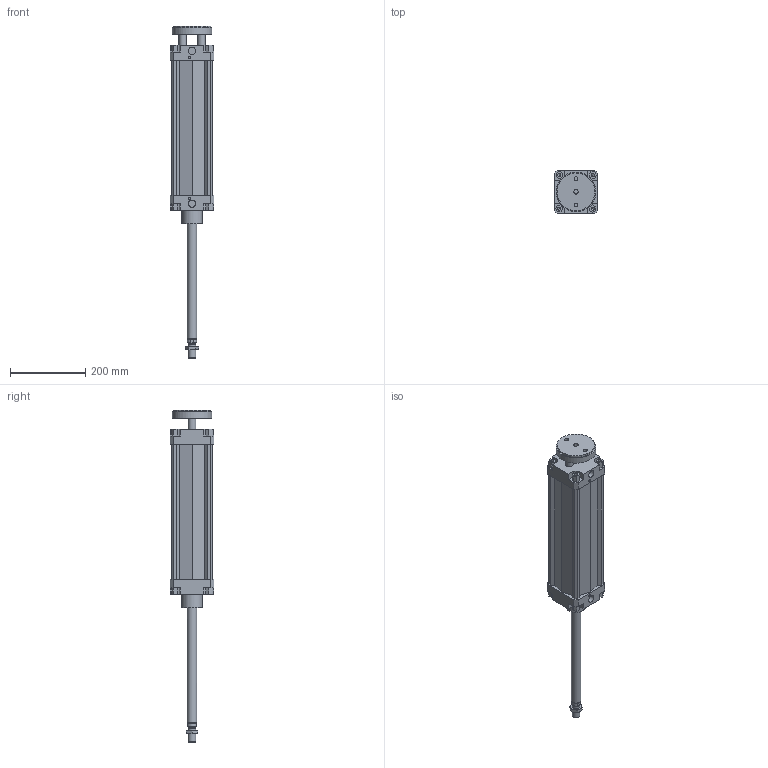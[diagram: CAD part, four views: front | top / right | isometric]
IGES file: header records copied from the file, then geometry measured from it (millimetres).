
Global section: file name: 132#_100_0300_02; native system: Autodesk Inventor 2014; preprocessor: unknown; author: A. Manieri; date: 20161006.163739; units: millimetre
Bounding box: 115 x 115 x 880 mm (x, y, z)
Volume: 2956878.6 mm3; surface area: 527172 mm2
Topology: 3 solids, 3 shells, 220 faces, 589 edges, 397 vertices
Faces by surface type: bspline 220
